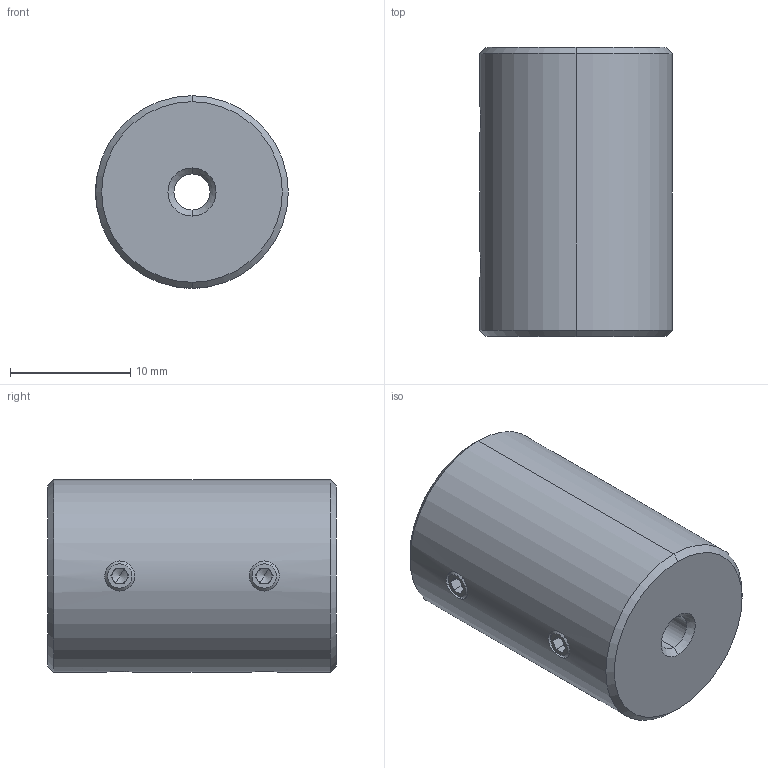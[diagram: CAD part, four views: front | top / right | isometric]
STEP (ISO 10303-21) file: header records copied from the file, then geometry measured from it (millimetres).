
FILE_DESCRIPTION (( 'STEP AP214' ), '1' );
FILE_NAME ('LL-D-D16L24-3-3.STEP', '2022-07-23T06:55:49', ( '' ), ( '' ), 'SwSTEP 2.0', 'SolidWorks 2022', '' );
FILE_SCHEMA (( 'AUTOMOTIVE_DESIGN' ));
Length unit declared in the file: millimetre
Products named in the file (1): LL-D-D16L24-3-3
Bounding box: 16 x 24 x 16 mm (x, y, z)
Volume: 4577.6 mm3; surface area: 1923.2 mm2
Topology: 1 solids, 1 shells, 110 faces, 284 edges, 174 vertices
Faces by surface type: plane 58, cone 32, cylinder 20
Entity records: 3590 total; most frequent: CARTESIAN_POINT 897, DIRECTION 566, ORIENTED_EDGE 552, EDGE_CURVE 276, AXIS2_PLACEMENT_3D 207, VERTEX_POINT 174, LINE 152, VECTOR 152
